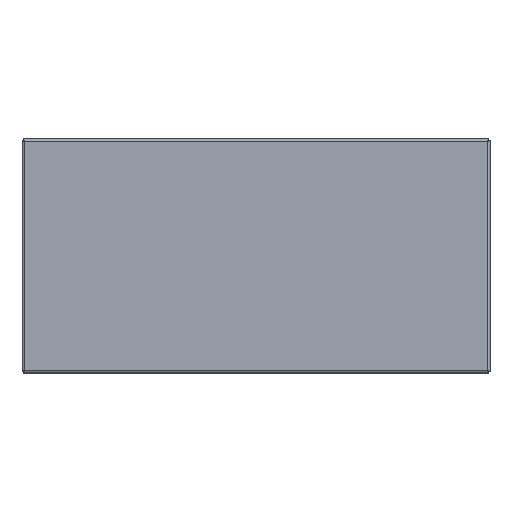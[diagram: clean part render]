
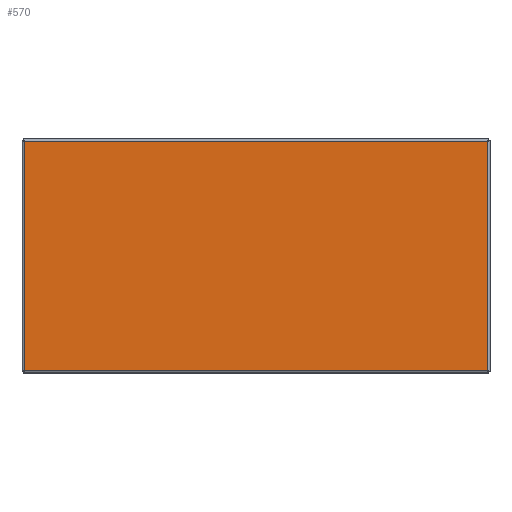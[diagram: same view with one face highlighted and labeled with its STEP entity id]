
A CAD part, top view. The second image highlights one B-rep face of the part: STEP entity #570.
In plain terms, the highlighted planar face has unit normal (0, 0, 1).
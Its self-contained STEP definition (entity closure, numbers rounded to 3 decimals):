
#36=PLANE('',#623);
#82=FACE_OUTER_BOUND('',#120,.T.);
#120=EDGE_LOOP('',(#521,#522,#523,#524));
#150=LINE('',#1297,#210);
#162=LINE('',#1320,#222);
#174=LINE('',#1343,#234);
#186=LINE('',#1366,#246);
#210=VECTOR('',#641,10.);
#222=VECTOR('',#667,10.);
#234=VECTOR('',#693,10.);
#246=VECTOR('',#719,10.);
#258=VERTEX_POINT('',#768);
#264=VERTEX_POINT('',#905);
#270=VERTEX_POINT('',#1042);
#276=VERTEX_POINT('',#1179);
#326=EDGE_CURVE('',#276,#270,#150,.T.);
#338=EDGE_CURVE('',#258,#276,#162,.T.);
#350=EDGE_CURVE('',#270,#264,#174,.T.);
#362=EDGE_CURVE('',#264,#258,#186,.T.);
#521=ORIENTED_EDGE('',*,*,#326,.T.);
#522=ORIENTED_EDGE('',*,*,#350,.T.);
#523=ORIENTED_EDGE('',*,*,#362,.T.);
#524=ORIENTED_EDGE('',*,*,#338,.T.);
#570=ADVANCED_FACE('',(#82),#36,.T.);
#623=AXIS2_PLACEMENT_3D('',#1388,#744,#745);
#641=DIRECTION('',(0.,1.,0.));
#667=DIRECTION('',(1.,0.,0.));
#693=DIRECTION('',(-1.,0.,0.));
#719=DIRECTION('',(0.,-1.,0.));
#744=DIRECTION('center_axis',(0.,0.,1.));
#745=DIRECTION('ref_axis',(1.,0.,0.));
#768=CARTESIAN_POINT('',(-148.43,-73.43,0.));
#905=CARTESIAN_POINT('',(-148.43,73.43,0.));
#1042=CARTESIAN_POINT('',(148.43,73.43,0.));
#1179=CARTESIAN_POINT('',(148.43,-73.43,0.));
#1297=CARTESIAN_POINT('',(148.43,-36.715,0.));
#1320=CARTESIAN_POINT('',(-74.215,-73.43,0.));
#1343=CARTESIAN_POINT('',(74.215,73.43,0.));
#1366=CARTESIAN_POINT('',(-148.43,36.715,0.));
#1388=CARTESIAN_POINT('Origin',(0.,0.,
0.));
